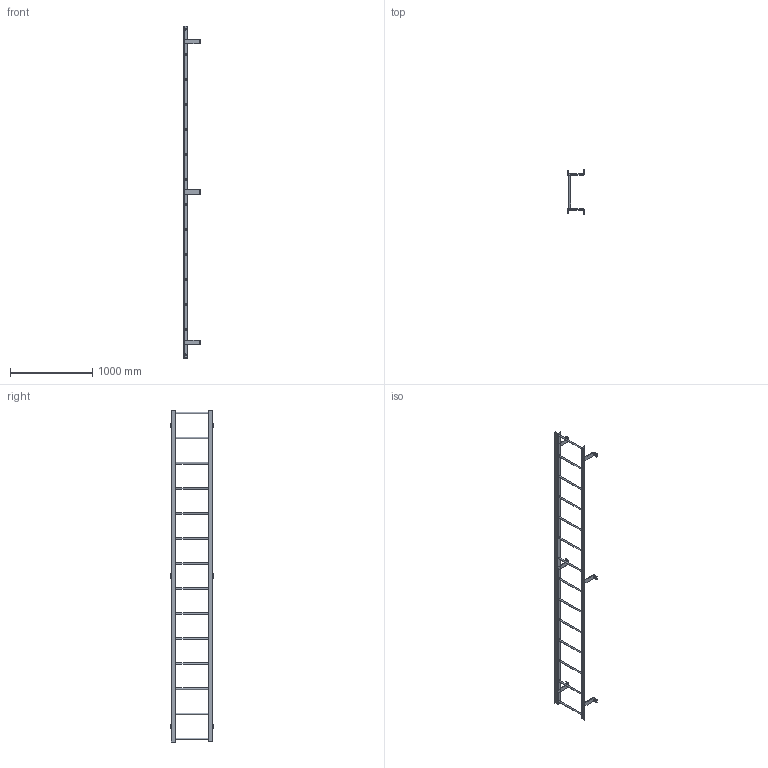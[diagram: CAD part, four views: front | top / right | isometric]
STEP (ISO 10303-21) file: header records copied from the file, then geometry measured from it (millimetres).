
FILE_DESCRIPTION(/* description */ (''),/* implementation_level */ '2;1');
FILE_NAME(/* name */ 'P:\MIKEL & KAREN\3570214 F14S SIMPLIFIED PART.stp',/* time_stamp */ '2018-07-03T08:58:17-04:00',/* author */ ('stephanie'),/* organization */ (''),/* preprocessor_version */ 'ST-DEVELOPER v16.1',/* originating_system */ 'Autodesk Inventor 2016',/* authorisation */ '');
FILE_SCHEMA (('AUTOMOTIVE_DESIGN { 1 0 10303 214 3 1 1 }'));
Length unit declared in the file: centimetre
Products named in the file (1): 3570214 F14S SIMPLIFIED PART
Bounding box: 203.33 x 533.25 x 4038.6 mm (x, y, z)
Volume: 6984529.7 mm3; surface area: 2094824.4 mm2
Topology: 16 solids, 16 shells, 178 faces, 460 edges, 314 vertices
Faces by surface type: plane 99, cylinder 79
Full cylindrical faces by diameter (mm): 14.287 x6, 19.05 x14, 22.225 x28
Entity records: 5308 total; most frequent: DIRECTION 906, CARTESIAN_POINT 837, ORIENTED_EDGE 756, EDGE_CURVE 378, AXIS2_PLACEMENT_3D 349, EDGE_LOOP 294, VERTEX_POINT 280, LINE 208
